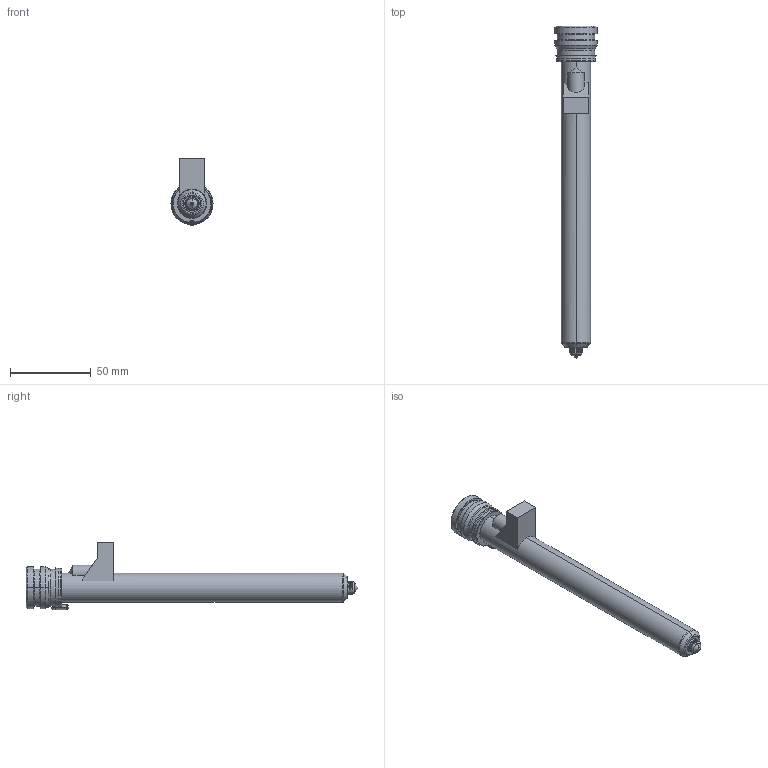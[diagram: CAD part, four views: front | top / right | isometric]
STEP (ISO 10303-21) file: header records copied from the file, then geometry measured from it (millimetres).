
FILE_DESCRIPTION((''),'2;1');
FILE_NAME('MPN-08-24-TX8-186-M','2026-02-05T13:26:57',('UPTIO'),('Thermoplay S.p.A.'),'CREO PARAMETRIC BY PTC INC, 2023494','CREO PARAMETRIC BY PTC INC, 2023494','');
FILE_SCHEMA(('CONFIG_CONTROL_DESIGN','SHAPE_APPEARANCE_LAYERS_GROUPS'));
Length unit declared in the file: millimetre
Products named in the file (1): MPN-08-24-TX8-186-M
Bounding box: 26 x 205.5 x 41.5 mm (x, y, z)
Volume: 38170.9 mm3; surface area: 51217.7 mm2
Topology: 2 solids, 3 shells, 532 faces, 1392 edges, 855 vertices
Faces by surface type: cylinder 174, plane 144, bspline 77, torus 62, cone 58, sphere 11, extrusion 6
Entity records: 28032 total; most frequent: CARTESIAN_POINT 12408, ORIENTED_EDGE 2762, DIRECTION 2491, EDGE_CURVE 1381, AXIS2_PLACEMENT_3D 974, VERTEX_POINT 855, EDGE_LOOP 562, VECTOR 543
